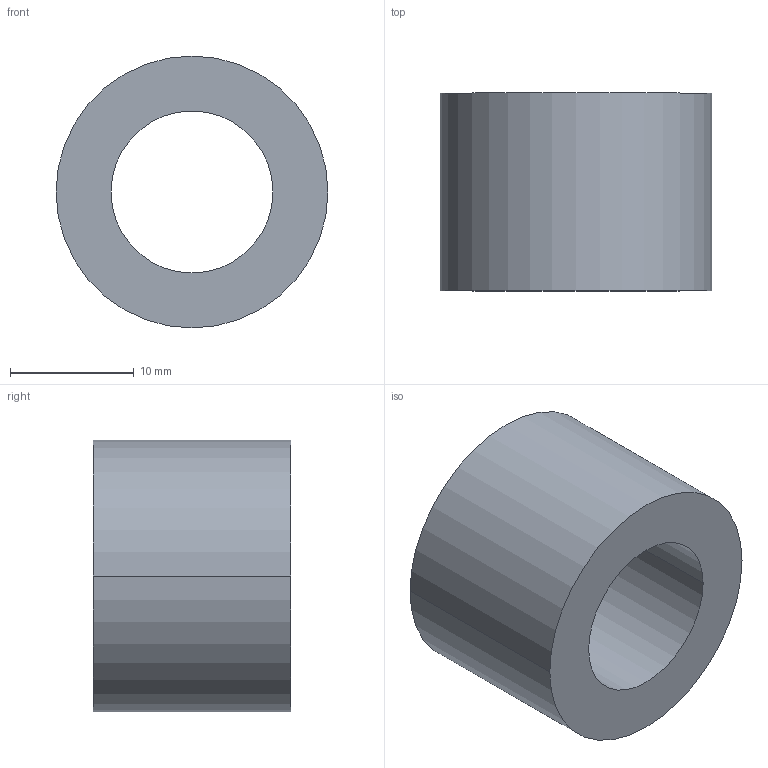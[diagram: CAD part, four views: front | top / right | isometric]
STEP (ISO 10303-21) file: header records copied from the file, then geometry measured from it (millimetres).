
FILE_DESCRIPTION (( 'STEP AP203' ), '1' );
FILE_NAME ('30800.WPP22F13.1.step', '2019-01-23T22:40:50', ( '' ), ( '' ), 'SwSTEP 2.0', 'SolidWorks 2017', '' );
FILE_SCHEMA (( 'CONFIG_CONTROL_DESIGN' ));
Length unit declared in the file: millimetre
Products named in the file (1): 30800.WPP22F13.1
Bounding box: 22 x 16 x 22 mm (x, y, z)
Volume: 3887.9 mm3; surface area: 2221.5 mm2
Topology: 1 solids, 1 shells, 8 faces, 16 edges, 10 vertices
Faces by surface type: cylinder 4, torus 2, plane 2
Entity records: 297 total; most frequent: DIRECTION 46, CARTESIAN_POINT 35, ORIENTED_EDGE 32, AXIS2_PLACEMENT_3D 21, EDGE_CURVE 16, CIRCLE 12, EDGE_LOOP 10, VERTEX_POINT 10
